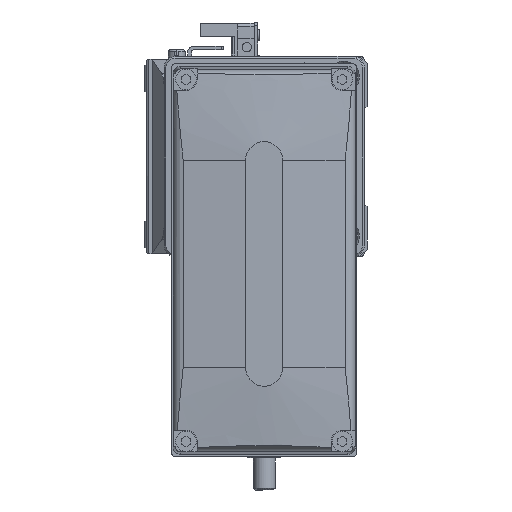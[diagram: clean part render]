
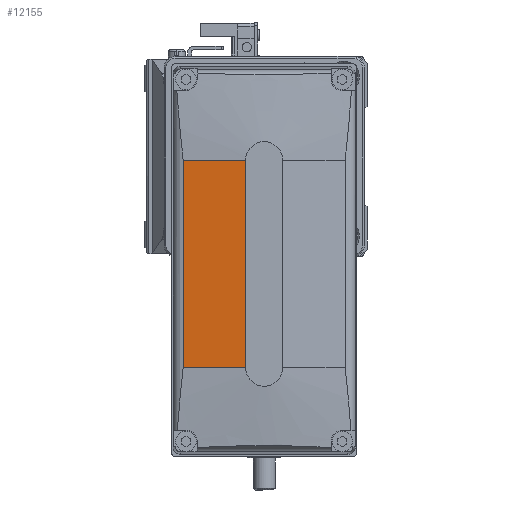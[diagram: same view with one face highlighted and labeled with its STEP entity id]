
A CAD part, left-side view. The second image highlights one B-rep face of the part: STEP entity #12155.
In plain terms, the highlighted planar face has unit normal (-0.996, 0.087, 0) as drawn and (-0.996, 0, -0.087) by its records, which use the part's own axes.
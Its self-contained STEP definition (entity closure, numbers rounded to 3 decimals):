
#478 = CARTESIAN_POINT ( 'NONE',  ( -48.525, 28., -21.861 ) ) ;
#858 = VECTOR ( 'NONE', #3174, 1000. ) ;
#904 = CARTESIAN_POINT ( 'NONE',  ( -50., 128., -5. ) ) ;
#1077 = CARTESIAN_POINT ( 'NONE',  ( -50., 128., -5. ) ) ;
#2197 = CARTESIAN_POINT ( 'NONE',  ( -48.525, -28., -21.861 ) ) ;
#2290 = FACE_OUTER_BOUND ( 'NONE', #30221, .T. ) ;
#3174 = DIRECTION ( 'NONE',  ( 0., 1., 0. ) ) ;
#3955 = DIRECTION ( 'NONE',  ( -0.996, 0., -0.087 ) ) ;
#3999 = EDGE_CURVE ( 'NONE', #14416, #13453, #19478, .T. ) ;
#10491 = CARTESIAN_POINT ( 'NONE',  ( 43606.406, 28., -499000. ) ) ;
#10512 = ORIENTED_EDGE ( 'NONE', *, *, #11476, .T. ) ;
#11476 = EDGE_CURVE ( 'NONE', #14416, #36217, #30136, .T. ) ;
#12155 = ADVANCED_FACE ( 'NONE', ( #2290 ), #29413, .T. ) ;
#13453 = VERTEX_POINT ( 'NONE', #2197 ) ;
#14180 = CARTESIAN_POINT ( 'NONE',  ( 43606.406, -28., -499000. ) ) ;
#14416 = VERTEX_POINT ( 'NONE', #31767 ) ;
#15735 = VERTEX_POINT ( 'NONE', #478 ) ;
#17724 = ORIENTED_EDGE ( 'NONE', *, *, #29034, .F. ) ;
#18062 = DIRECTION ( 'NONE',  ( -0.087, 0., 0.996 ) ) ;
#19478 = LINE ( 'NONE', #14180, #32559 ) ;
#20700 = DIRECTION ( 'NONE',  ( 0., 1., 0. ) ) ;
#21840 = VECTOR ( 'NONE', #20700, 1000. ) ;
#22399 = DIRECTION ( 'NONE',  ( 0.087, 0., -0.996 ) ) ;
#22897 = CARTESIAN_POINT ( 'NONE',  ( -48.525, 128., -21.861 ) ) ;
#23202 = CARTESIAN_POINT ( 'NONE',  ( -50., 28., -5. ) ) ;
#24015 = VECTOR ( 'NONE', #27065, 1000. ) ;
#25855 = EDGE_CURVE ( 'NONE', #13453, #15735, #28139, .T. ) ;
#27065 = DIRECTION ( 'NONE',  ( -0.087, 0., 0.996 ) ) ;
#28139 = LINE ( 'NONE', #22897, #858 ) ;
#29034 = EDGE_CURVE ( 'NONE', #15735, #36217, #33550, .T. ) ;
#29413 = PLANE ( 'NONE',  #33765 ) ;
#30136 = LINE ( 'NONE', #1077, #21840 ) ;
#30221 = EDGE_LOOP ( 'NONE', ( #17724, #34403, #32656, #10512 ) ) ;
#31767 = CARTESIAN_POINT ( 'NONE',  ( -50., -28., -5. ) ) ;
#32559 = VECTOR ( 'NONE', #22399, 1000. ) ;
#32656 = ORIENTED_EDGE ( 'NONE', *, *, #3999, .F. ) ;
#33550 = LINE ( 'NONE', #10491, #24015 ) ;
#33765 = AXIS2_PLACEMENT_3D ( 'NONE', #904, #3955, #18062 ) ;
#34403 = ORIENTED_EDGE ( 'NONE', *, *, #25855, .F. ) ;
#36217 = VERTEX_POINT ( 'NONE', #23202 ) ;
